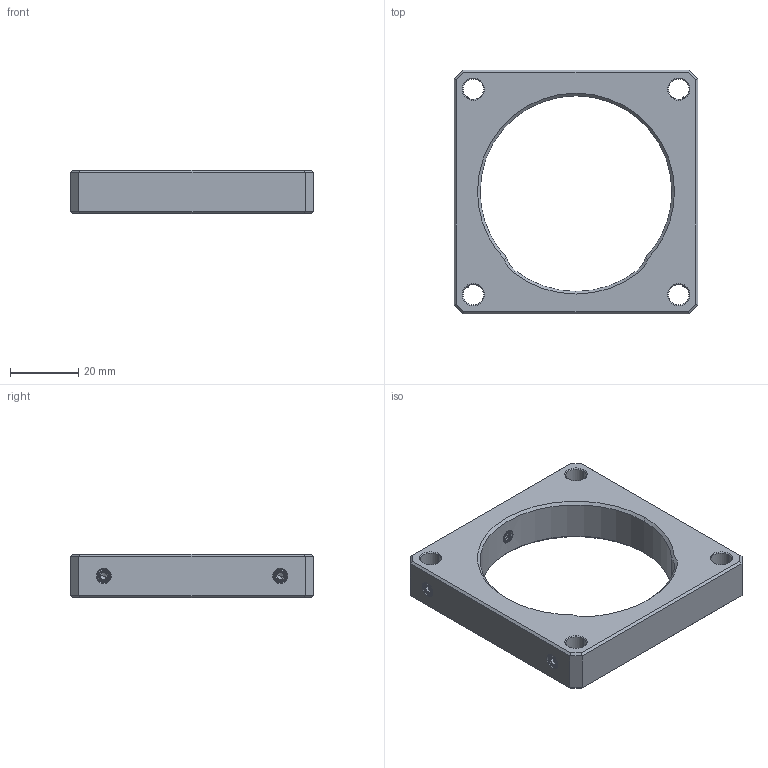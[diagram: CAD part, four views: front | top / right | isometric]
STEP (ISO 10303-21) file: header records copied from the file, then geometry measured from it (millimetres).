
FILE_DESCRIPTION((''),'2;1');
FILE_NAME('CSJ-61_ASM','2026-05-27T09:38:28',('R&D'),(''),'CREO PARAMETRIC BY PTC INC, 2021063','CREO PARAMETRIC BY PTC INC, 2021063','');
FILE_SCHEMA(('CONFIG_CONTROL_DESIGN'));
Products named in the file (7): CSJ-61-A2; CSJ-61-A3; CSJ-61-A4; CSJ-61-A5; CSJ-61-A6; CSJ-61-A1_ASM; CSJ-61_ASM
Assembly tree (6 placements, depth 3):
  CSJ-61_ASM
    CSJ-61-A1_ASM
      CSJ-61-A2
      CSJ-61-A3
      CSJ-61-A4
      CSJ-61-A5
      CSJ-61-A6
Bounding box: 71.12 x 71.12 x 12.7 mm (x, y, z)
Volume: 30056.4 mm3; surface area: 13111.1 mm2
Topology: 5 solids, 11 shells, 522 faces, 1459 edges, 923 vertices
Faces by surface type: cylinder 199, bspline 144, cone 88, plane 83, torus 8
Entity records: 62288 total; most frequent: CARTESIAN_POINT 50633, ORIENTED_EDGE 2824, DIRECTION 1671, EDGE_CURVE 1433, VERTEX_POINT 923, B_SPLINE_CURVE_WITH_KNOTS 771, AXIS2_PLACEMENT_3D 611, EDGE_LOOP 556
